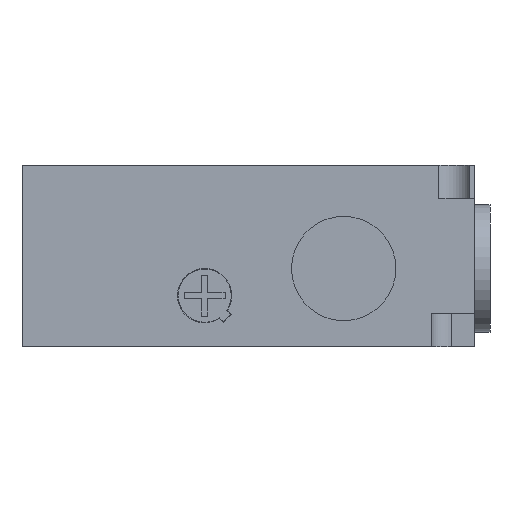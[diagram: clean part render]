
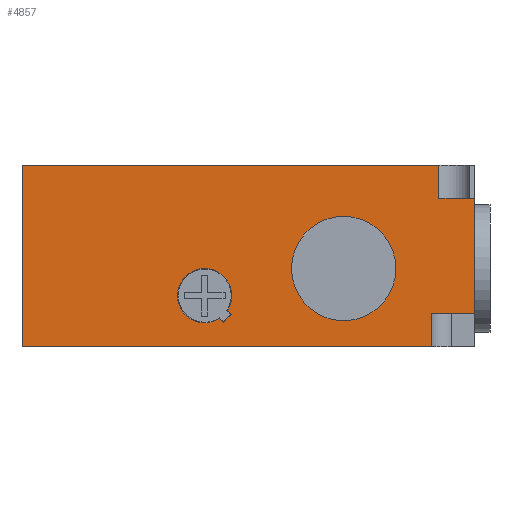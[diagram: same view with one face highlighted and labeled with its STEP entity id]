
A CAD part, front view. The second image highlights one B-rep face of the part: STEP entity #4857.
In plain terms, the highlighted planar face has unit normal (0, -1, 0).
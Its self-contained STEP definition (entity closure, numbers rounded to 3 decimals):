
#9 = EDGE_CURVE ( 'NONE', #7005, #1067, #3250, .T. ) ;
#63 = DIRECTION ( 'NONE',  ( 0., -1., 0. ) ) ;
#152 = VECTOR ( 'NONE', #8675, 1000. ) ;
#200 = DIRECTION ( 'NONE',  ( 0., 0., -1. ) ) ;
#237 = CIRCLE ( 'NONE', #5146, 5.3 ) ;
#344 = ORIENTED_EDGE ( 'NONE', *, *, #5882, .F. ) ;
#352 = DIRECTION ( 'NONE',  ( 0., 1., 0. ) ) ;
#429 = EDGE_CURVE ( 'NONE', #3556, #1313, #3304, .T. ) ;
#447 = CARTESIAN_POINT ( 'NONE',  ( -4., -91., 6.5 ) ) ;
#484 = ORIENTED_EDGE ( 'NONE', *, *, #1830, .T. ) ;
#545 = DIRECTION ( 'NONE',  ( 0., 0., -1. ) ) ;
#564 = DIRECTION ( 'NONE',  ( -0.707, 0., 0.707 ) ) ;
#621 = EDGE_CURVE ( 'NONE', #8689, #2405, #1030, .T. ) ;
#643 = VECTOR ( 'NONE', #564, 1000. ) ;
#715 = VERTEX_POINT ( 'NONE', #2110 ) ;
#766 = CARTESIAN_POINT ( 'NONE',  ( -45.469, -91., 5.614 ) ) ;
#786 = EDGE_CURVE ( 'NONE', #2405, #2328, #9102, .T. ) ;
#813 = EDGE_CURVE ( 'NONE', #2328, #6610, #9051, .T. ) ;
#838 = ORIENTED_EDGE ( 'NONE', *, *, #8084, .F. ) ;
#918 = EDGE_CURVE ( 'NONE', #3796, #8689, #3904, .T. ) ;
#1030 = CIRCLE ( 'NONE', #2301, 5.3 ) ;
#1067 = VERTEX_POINT ( 'NONE', #2832 ) ;
#1159 = CARTESIAN_POINT ( 'NONE',  ( -48.3, -91., 15.3 ) ) ;
#1235 = LINE ( 'NONE', #2820, #7377 ) ;
#1241 = ORIENTED_EDGE ( 'NONE', *, *, #9756, .F. ) ;
#1310 = CARTESIAN_POINT ( 'NONE',  ( -48.3, -91., 4.7 ) ) ;
#1313 = VERTEX_POINT ( 'NONE', #7712 ) ;
#1318 = CARTESIAN_POINT ( 'NONE',  ( -44.623, -91., 4.767 ) ) ;
#1383 = CARTESIAN_POINT ( 'NONE',  ( -84., -91., 0. ) ) ;
#1452 = EDGE_LOOP ( 'NONE', ( #2662, #4403, #1241, #4439, #838, #484, #6763, #1865 ) ) ;
#1592 = CARTESIAN_POINT ( 'NONE',  ( 4.5, -91., 6.5 ) ) ;
#1756 = DIRECTION ( 'NONE',  ( 0., -1., 0. ) ) ;
#1830 = EDGE_CURVE ( 'NONE', #5482, #8425, #8394, .T. ) ;
#1862 = ORIENTED_EDGE ( 'NONE', *, *, #9054, .F. ) ;
#1865 = ORIENTED_EDGE ( 'NONE', *, *, #6315, .T. ) ;
#1882 = CARTESIAN_POINT ( 'NONE',  ( 4.5, -91., 29. ) ) ;
#1964 = DIRECTION ( 'NONE',  ( 1., 0., 0. ) ) ;
#2040 = FACE_BOUND ( 'NONE', #2682, .T. ) ;
#2043 = ORIENTED_EDGE ( 'NONE', *, *, #6745, .F. ) ;
#2110 = CARTESIAN_POINT ( 'NONE',  ( -43.856, -91., 7.112 ) ) ;
#2301 = AXIS2_PLACEMENT_3D ( 'NONE', #3601, #5783, #1964 ) ;
#2328 = VERTEX_POINT ( 'NONE', #1318 ) ;
#2405 = VERTEX_POINT ( 'NONE', #3117 ) ;
#2662 = ORIENTED_EDGE ( 'NONE', *, *, #4489, .T. ) ;
#2682 = EDGE_LOOP ( 'NONE', ( #8997, #9338, #7876, #344, #1862, #8814 ) ) ;
#2820 = CARTESIAN_POINT ( 'NONE',  ( -84., -91., 35.5 ) ) ;
#2832 = CARTESIAN_POINT ( 'NONE',  ( -21.1, -91., 25.5 ) ) ;
#2865 = CARTESIAN_POINT ( 'NONE',  ( -84., -91., 35.5 ) ) ;
#2869 = EDGE_LOOP ( 'NONE', ( #5603, #2043 ) ) ;
#2988 = CARTESIAN_POINT ( 'NONE',  ( -43.914, -91., 7.169 ) ) ;
#3103 = DIRECTION ( 'NONE',  ( 0.707, 0., -0.707 ) ) ;
#3117 = CARTESIAN_POINT ( 'NONE',  ( -45.412, -91., 5.556 ) ) ;
#3250 = CIRCLE ( 'NONE', #4830, 10.2 ) ;
#3282 = DIRECTION ( 'NONE',  ( 0., 0., -1. ) ) ;
#3304 = LINE ( 'NONE', #5542, #4687 ) ;
#3370 = VERTEX_POINT ( 'NONE', #9373 ) ;
#3445 = EDGE_CURVE ( 'NONE', #8260, #8425, #4678, .T. ) ;
#3556 = VERTEX_POINT ( 'NONE', #447 ) ;
#3577 = CIRCLE ( 'NONE', #8341, 10.2 ) ;
#3578 = FACE_BOUND ( 'NONE', #2869, .T. ) ;
#3601 = CARTESIAN_POINT ( 'NONE',  ( -48.3, -91., 10. ) ) ;
#3796 = VERTEX_POINT ( 'NONE', #1159 ) ;
#3904 = CIRCLE ( 'NONE', #6424, 5.3 ) ;
#3932 = DIRECTION ( 'NONE',  ( 0., 0., -1. ) ) ;
#3971 = CARTESIAN_POINT ( 'NONE',  ( -21.1, -91., 15.3 ) ) ;
#4007 = CARTESIAN_POINT ( 'NONE',  ( -2.5, -91., 35.5 ) ) ;
#4112 = LINE ( 'NONE', #1882, #152 ) ;
#4173 = VECTOR ( 'NONE', #3282, 1000. ) ;
#4180 = DIRECTION ( 'NONE',  ( 1., 0., 0. ) ) ;
#4253 = VECTOR ( 'NONE', #7056, 1000. ) ;
#4331 = LINE ( 'NONE', #2988, #643 ) ;
#4403 = ORIENTED_EDGE ( 'NONE', *, *, #429, .F. ) ;
#4439 = ORIENTED_EDGE ( 'NONE', *, *, #4695, .F. ) ;
#4489 = EDGE_CURVE ( 'NONE', #6470, #1313, #5029, .T. ) ;
#4626 = DIRECTION ( 'NONE',  ( -1., 0., 0. ) ) ;
#4678 = LINE ( 'NONE', #5562, #4253 ) ;
#4687 = VECTOR ( 'NONE', #6188, 1000. ) ;
#4695 = EDGE_CURVE ( 'NONE', #3370, #6321, #6214, .T. ) ;
#4830 = AXIS2_PLACEMENT_3D ( 'NONE', #5374, #5467, #3932 ) ;
#4857 = ADVANCED_FACE ( 'NONE', ( #6503, #3578, #2040 ), #9521, .F. ) ;
#4979 = CARTESIAN_POINT ( 'NONE',  ( -84., -91., 0. ) ) ;
#5029 = LINE ( 'NONE', #4979, #5336 ) ;
#5146 = AXIS2_PLACEMENT_3D ( 'NONE', #6013, #63, #6761 ) ;
#5336 = VECTOR ( 'NONE', #4180, 1000. ) ;
#5343 = CARTESIAN_POINT ( 'NONE',  ( -44.552, -91., 4.838 ) ) ;
#5370 = LINE ( 'NONE', #1592, #7633 ) ;
#5374 = CARTESIAN_POINT ( 'NONE',  ( -21.1, -91., 15.3 ) ) ;
#5467 = DIRECTION ( 'NONE',  ( 0., -1., 0. ) ) ;
#5482 = VERTEX_POINT ( 'NONE', #6788 ) ;
#5542 = CARTESIAN_POINT ( 'NONE',  ( -4., -91., 6.5 ) ) ;
#5562 = CARTESIAN_POINT ( 'NONE',  ( -84., -91., 35.5 ) ) ;
#5603 = ORIENTED_EDGE ( 'NONE', *, *, #9, .F. ) ;
#5636 = VECTOR ( 'NONE', #3103, 1000. ) ;
#5709 = CARTESIAN_POINT ( 'NONE',  ( 4.5, -91., 6.5 ) ) ;
#5783 = DIRECTION ( 'NONE',  ( 0., -1., 0. ) ) ;
#5882 = EDGE_CURVE ( 'NONE', #715, #3796, #237, .T. ) ;
#5893 = CARTESIAN_POINT ( 'NONE',  ( -21.1, -91., 5.1 ) ) ;
#6013 = CARTESIAN_POINT ( 'NONE',  ( -48.3, -91., 10. ) ) ;
#6174 = DIRECTION ( 'NONE',  ( 1., 0., 0. ) ) ;
#6188 = DIRECTION ( 'NONE',  ( 0., 0., -1. ) ) ;
#6214 = LINE ( 'NONE', #7901, #4173 ) ;
#6246 = CARTESIAN_POINT ( 'NONE',  ( -2.5, -91., 29. ) ) ;
#6315 = EDGE_CURVE ( 'NONE', #8260, #6470, #1235, .T. ) ;
#6321 = VERTEX_POINT ( 'NONE', #5709 ) ;
#6424 = AXIS2_PLACEMENT_3D ( 'NONE', #9384, #1756, #6174 ) ;
#6470 = VERTEX_POINT ( 'NONE', #1383 ) ;
#6503 = FACE_OUTER_BOUND ( 'NONE', #1452, .T. ) ;
#6604 = CARTESIAN_POINT ( 'NONE',  ( -84., -91., 35.5 ) ) ;
#6610 = VERTEX_POINT ( 'NONE', #9228 ) ;
#6745 = EDGE_CURVE ( 'NONE', #1067, #7005, #3577, .T. ) ;
#6761 = DIRECTION ( 'NONE',  ( 1., 0., 0. ) ) ;
#6763 = ORIENTED_EDGE ( 'NONE', *, *, #3445, .F. ) ;
#6788 = CARTESIAN_POINT ( 'NONE',  ( -2.5, -91., 29. ) ) ;
#6850 = DIRECTION ( 'NONE',  ( 0., 0., 1. ) ) ;
#6997 = DIRECTION ( 'NONE',  ( 0., -1., 0. ) ) ;
#7005 = VERTEX_POINT ( 'NONE', #5893 ) ;
#7056 = DIRECTION ( 'NONE',  ( 1., 0., 0. ) ) ;
#7078 = VECTOR ( 'NONE', #6850, 1000. ) ;
#7377 = VECTOR ( 'NONE', #545, 1000. ) ;
#7382 = VECTOR ( 'NONE', #9747, 1000. ) ;
#7633 = VECTOR ( 'NONE', #4626, 1000. ) ;
#7712 = CARTESIAN_POINT ( 'NONE',  ( -4., -91., 0. ) ) ;
#7876 = ORIENTED_EDGE ( 'NONE', *, *, #918, .F. ) ;
#7901 = CARTESIAN_POINT ( 'NONE',  ( 4.5, -91., 35.5 ) ) ;
#8084 = EDGE_CURVE ( 'NONE', #5482, #3370, #4112, .T. ) ;
#8260 = VERTEX_POINT ( 'NONE', #2865 ) ;
#8341 = AXIS2_PLACEMENT_3D ( 'NONE', #3971, #6997, #200 ) ;
#8394 = LINE ( 'NONE', #6246, #7078 ) ;
#8425 = VERTEX_POINT ( 'NONE', #4007 ) ;
#8675 = DIRECTION ( 'NONE',  ( 1., 0., 0. ) ) ;
#8689 = VERTEX_POINT ( 'NONE', #1310 ) ;
#8814 = ORIENTED_EDGE ( 'NONE', *, *, #813, .F. ) ;
#8997 = ORIENTED_EDGE ( 'NONE', *, *, #786, .F. ) ;
#9051 = LINE ( 'NONE', #5343, #7382 ) ;
#9054 = EDGE_CURVE ( 'NONE', #6610, #715, #4331, .T. ) ;
#9102 = LINE ( 'NONE', #766, #5636 ) ;
#9228 = CARTESIAN_POINT ( 'NONE',  ( -43.067, -91., 6.323 ) ) ;
#9250 = AXIS2_PLACEMENT_3D ( 'NONE', #6604, #352, #9423 ) ;
#9338 = ORIENTED_EDGE ( 'NONE', *, *, #621, .F. ) ;
#9373 = CARTESIAN_POINT ( 'NONE',  ( 4.5, -91., 29. ) ) ;
#9384 = CARTESIAN_POINT ( 'NONE',  ( -48.3, -91., 10. ) ) ;
#9423 = DIRECTION ( 'NONE',  ( 1., 0., 0. ) ) ;
#9521 = PLANE ( 'NONE',  #9250 ) ;
#9747 = DIRECTION ( 'NONE',  ( 0.707, 0., 0.707 ) ) ;
#9756 = EDGE_CURVE ( 'NONE', #6321, #3556, #5370, .T. ) ;
